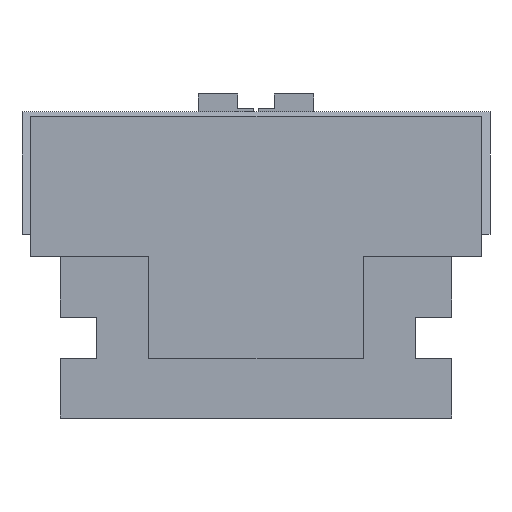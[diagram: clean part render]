
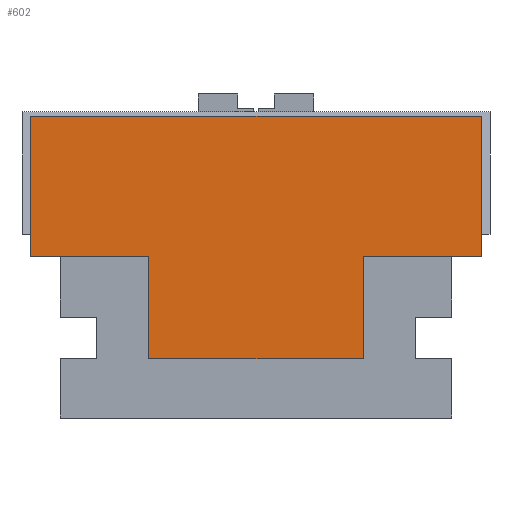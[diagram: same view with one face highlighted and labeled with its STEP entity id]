
A CAD part, left-side view. The second image highlights one B-rep face of the part: STEP entity #602.
In plain terms, the highlighted planar face has unit normal (-1, 0, 0).
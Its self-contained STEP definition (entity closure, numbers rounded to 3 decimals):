
#341=CARTESIAN_POINT('Vertex',(-597.,-98.,0.)) ;
#344=CARTESIAN_POINT('Line Origine',(-597.,-72.25,0.)) ;
#348=CARTESIAN_POINT('Vertex',(-597.,-46.5,0.)) ;
#514=CARTESIAN_POINT('Vertex',(-597.,-98.,60.8)) ;
#517=CARTESIAN_POINT('Line Origine',(-597.,-98.,30.4)) ;
#531=CARTESIAN_POINT('Axis2P3D Location',(-597.,0.,0.)) ;
#536=CARTESIAN_POINT('Line Origine',(-597.,-23.25,-44.25)) ;
#540=CARTESIAN_POINT('Vertex',(-597.,0.,-44.25)) ;
#542=CARTESIAN_POINT('Vertex',(-597.,-46.5,-44.25)) ;
#545=CARTESIAN_POINT('Line Origine',(-597.,-46.5,-22.125)) ;
#550=CARTESIAN_POINT('Line Origine',(-597.,-49.,60.8)) ;
#554=CARTESIAN_POINT('Vertex',(-597.,0.,60.8)) ;
#557=CARTESIAN_POINT('Line Origine',(-597.,49.,60.8)) ;
#561=CARTESIAN_POINT('Vertex',(-597.,98.,60.8)) ;
#564=CARTESIAN_POINT('Line Origine',(-597.,98.,30.4)) ;
#568=CARTESIAN_POINT('Vertex',(-597.,98.,0.)) ;
#571=CARTESIAN_POINT('Line Origine',(-597.,72.25,0.)) ;
#575=CARTESIAN_POINT('Vertex',(-597.,46.5,0.)) ;
#578=CARTESIAN_POINT('Line Origine',(-597.,46.5,-22.125)) ;
#582=CARTESIAN_POINT('Vertex',(-597.,46.5,-44.25)) ;
#585=CARTESIAN_POINT('Line Origine',(-597.,23.25,-44.25)) ;
#346=VECTOR('Line Direction',#345,1.) ;
#519=VECTOR('Line Direction',#518,1.) ;
#538=VECTOR('Line Direction',#537,1.) ;
#547=VECTOR('Line Direction',#546,1.) ;
#552=VECTOR('Line Direction',#551,1.) ;
#559=VECTOR('Line Direction',#558,1.) ;
#566=VECTOR('Line Direction',#565,1.) ;
#573=VECTOR('Line Direction',#572,1.) ;
#580=VECTOR('Line Direction',#579,1.) ;
#587=VECTOR('Line Direction',#586,1.) ;
#345=DIRECTION('Vector Direction',(0.,-1.,0.)) ;
#518=DIRECTION('Vector Direction',(0.,0.,1.)) ;
#532=DIRECTION('Axis2P3D Direction',(-1.,0.,0.)) ;
#533=DIRECTION('Axis2P3D XDirection',(0.,-1.,0.)) ;
#537=DIRECTION('Vector Direction',(0.,-1.,0.)) ;
#546=DIRECTION('Vector Direction',(0.,0.,1.)) ;
#551=DIRECTION('Vector Direction',(0.,-1.,0.)) ;
#558=DIRECTION('Vector Direction',(0.,1.,0.)) ;
#565=DIRECTION('Vector Direction',(0.,0.,1.)) ;
#572=DIRECTION('Vector Direction',(0.,1.,0.)) ;
#579=DIRECTION('Vector Direction',(0.,0.,1.)) ;
#586=DIRECTION('Vector Direction',(0.,1.,0.)) ;
#534=AXIS2_PLACEMENT_3D('Plane Axis2P3D',#531,#532,#533) ;
#347=LINE('Line',#344,#346) ;
#520=LINE('Line',#517,#519) ;
#539=LINE('Line',#536,#538) ;
#548=LINE('Line',#545,#547) ;
#553=LINE('Line',#550,#552) ;
#560=LINE('Line',#557,#559) ;
#567=LINE('Line',#564,#566) ;
#574=LINE('Line',#571,#573) ;
#581=LINE('Line',#578,#580) ;
#588=LINE('Line',#585,#587) ;
#535=PLANE('',#534) ;
#350=EDGE_CURVE('',#349,#342,#347,.T.) ;
#521=EDGE_CURVE('',#342,#515,#520,.T.) ;
#544=EDGE_CURVE('',#541,#543,#539,.T.) ;
#549=EDGE_CURVE('',#543,#349,#548,.T.) ;
#556=EDGE_CURVE('',#515,#555,#553,.F.) ;
#563=EDGE_CURVE('',#555,#562,#560,.T.) ;
#570=EDGE_CURVE('',#562,#569,#567,.F.) ;
#577=EDGE_CURVE('',#569,#576,#574,.F.) ;
#584=EDGE_CURVE('',#576,#583,#581,.F.) ;
#589=EDGE_CURVE('',#583,#541,#588,.F.) ;
#591=ORIENTED_EDGE('',*,*,#544,.T.) ;
#592=ORIENTED_EDGE('',*,*,#549,.T.) ;
#593=ORIENTED_EDGE('',*,*,#350,.T.) ;
#594=ORIENTED_EDGE('',*,*,#521,.T.) ;
#595=ORIENTED_EDGE('',*,*,#556,.T.) ;
#596=ORIENTED_EDGE('',*,*,#563,.T.) ;
#597=ORIENTED_EDGE('',*,*,#570,.T.) ;
#598=ORIENTED_EDGE('',*,*,#577,.T.) ;
#599=ORIENTED_EDGE('',*,*,#584,.T.) ;
#600=ORIENTED_EDGE('',*,*,#589,.T.) ;
#590=EDGE_LOOP('',(#591,#592,#593,#594,#595,#596,#597,#598,#599,#600)) ;
#342=VERTEX_POINT('',#341) ;
#349=VERTEX_POINT('',#348) ;
#515=VERTEX_POINT('',#514) ;
#541=VERTEX_POINT('',#540) ;
#543=VERTEX_POINT('',#542) ;
#555=VERTEX_POINT('',#554) ;
#562=VERTEX_POINT('',#561) ;
#569=VERTEX_POINT('',#568) ;
#576=VERTEX_POINT('',#575) ;
#583=VERTEX_POINT('',#582) ;
#602=ADVANCED_FACE('Corps principal',(#601),#535,.T.) ;
#601=FACE_OUTER_BOUND('',#590,.T.) ;
